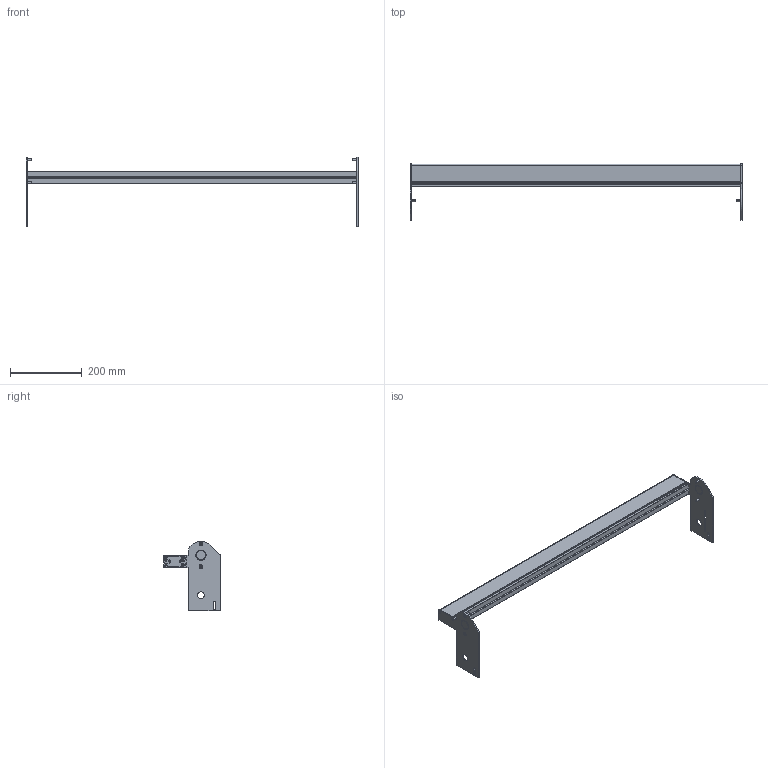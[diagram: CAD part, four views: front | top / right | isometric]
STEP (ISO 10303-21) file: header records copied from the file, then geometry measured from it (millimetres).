
FILE_DESCRIPTION((''),'2;1');
FILE_NAME('350712-36_ASM','2023-03-22T',('jenni.wallner'),(''),'PRO/ENGINEER BY PARAMETRIC TECHNOLOGY CORPORATION, 2012420','PRO/ENGINEER BY PARAMETRIC TECHNOLOGY CORPORATION, 2012420','');
FILE_SCHEMA(('CONFIG_CONTROL_DESIGN'));
Length unit declared in the file: inch
Products named in the file (6): 350669-36; 350667; 350668; 930412M; 930516M; 350712-36_ASM
Assembly tree (11 placements, depth 2):
  350712-36_ASM
    350669-36
    350667
    350668
    930412M  x4
    930516M  x4
Bounding box: 926.74 x 158.09 x 193.27 mm (x, y, z)
Volume: 838474.9 mm3; surface area: 545253.9 mm2
Topology: 11 solids, 11 shells, 334 faces, 872 edges, 568 vertices
Faces by surface type: plane 150, cylinder 136, cone 48
Entity records: 7773 total; most frequent: DIRECTION 1398, CARTESIAN_POINT 1317, ORIENTED_EDGE 1288, EDGE_CURVE 644, AXIS2_PLACEMENT_3D 505, VERTEX_POINT 424, VECTOR 388, LINE 388
